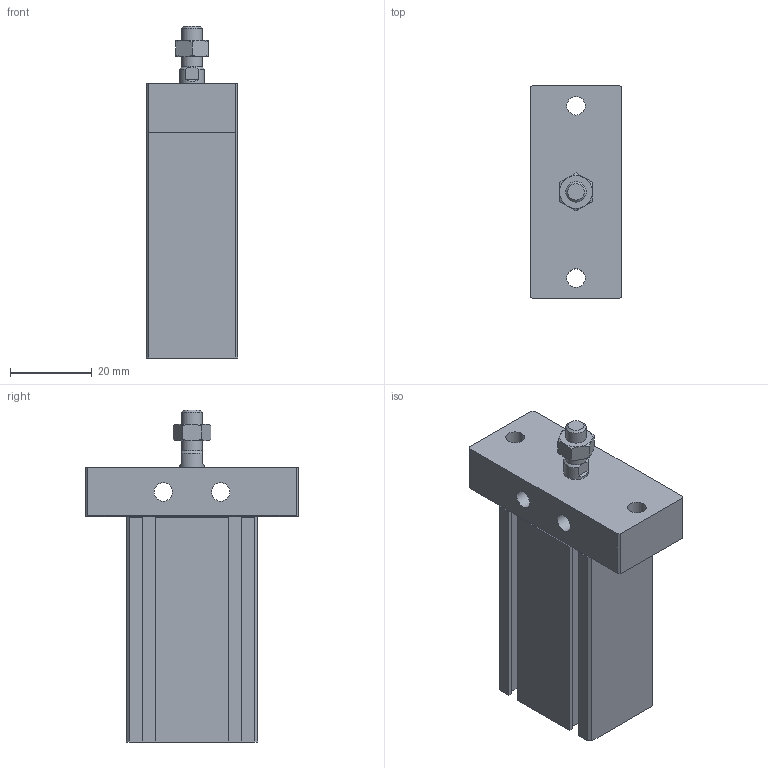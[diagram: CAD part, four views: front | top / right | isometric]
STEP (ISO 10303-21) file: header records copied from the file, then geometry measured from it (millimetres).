
FILE_DESCRIPTION((''),'2;1');
FILE_NAME('J:\3D電子目錄\氣缸\ND\ND\ND16-FBS\ND16x20-FBS.stp','2008-03-13T09:33:27',('66-2f-008'),(''),'Autodesk Inventor 11','Autodesk Inventor 11','');
FILE_SCHEMA(('AUTOMOTIVE_DESIGN { 1 0 10303 214 1 1 1 1 }'));
Length unit declared in the file: millimetre
Products named in the file (1): ND16-FBS
Bounding box: 22.4 x 52 x 81 mm (x, y, z)
Volume: 46587.1 mm3; surface area: 14874.7 mm2
Topology: 2 solids, 2 shells, 130 faces, 310 edges, 195 vertices
Faces by surface type: plane 83, cone 22, bspline 14, cylinder 10, torus 1
Full cylindrical faces by diameter (mm): 1.5 x2, 4.5 x2, 5 x2, 6 x1, 10 x1, 18 x1, 19 x1
Entity records: 3636 total; most frequent: CARTESIAN_POINT 833, ORIENTED_EDGE 550, DIRECTION 542, EDGE_CURVE 275, VERTEX_POINT 189, VECTOR 186, LINE 186, AXIS2_PLACEMENT_3D 178
